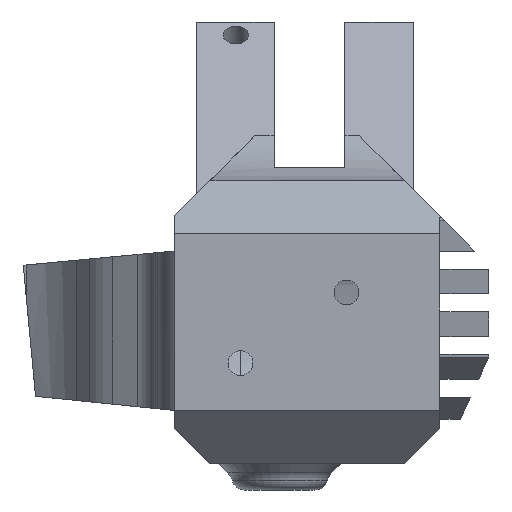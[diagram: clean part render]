
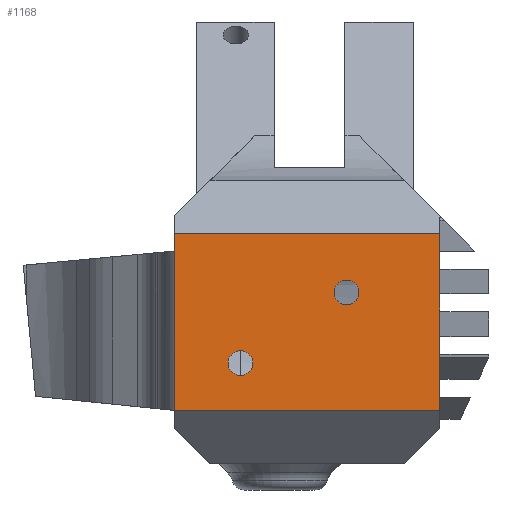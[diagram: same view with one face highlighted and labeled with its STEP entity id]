
A CAD part, left-side view. The second image highlights one B-rep face of the part: STEP entity #1168.
In plain terms, the highlighted planar face has unit normal (-1, 0, 0).
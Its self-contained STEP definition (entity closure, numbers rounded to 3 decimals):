
#180=PLANE('',#4068);
#551=LINE('',#5789,#875);
#629=LINE('',#6039,#953);
#659=LINE('',#6206,#983);
#660=LINE('',#6207,#984);
#875=VECTOR('',#4491,1.);
#953=VECTOR('',#4615,1.);
#983=VECTOR('',#4673,1.);
#984=VECTOR('',#4674,1.);
#1168=ADVANCED_FACE('',(#1523,#1524,#1525),#180,.F.);
#1523=FACE_BOUND('',#1643,.T.);
#1524=FACE_BOUND('',#1644,.T.);
#1525=FACE_BOUND('',#1645,.T.);
#1643=EDGE_LOOP('',(#2179,#2180,#2181,#2182));
#1644=EDGE_LOOP('',(#2183));
#1645=EDGE_LOOP('',(#2184));
#2179=ORIENTED_EDGE('',*,*,#3458,.F.);
#2180=ORIENTED_EDGE('',*,*,#3602,.T.);
#2181=ORIENTED_EDGE('',*,*,#3555,.F.);
#2182=ORIENTED_EDGE('',*,*,#3603,.T.);
#2183=ORIENTED_EDGE('',*,*,#3604,.T.);
#2184=ORIENTED_EDGE('',*,*,#3605,.F.);
#3071=VERTEX_POINT('',#5788);
#3072=VERTEX_POINT('',#5790);
#3150=VERTEX_POINT('',#6038);
#3151=VERTEX_POINT('',#6040);
#3192=VERTEX_POINT('',#6209);
#3193=VERTEX_POINT('',#6211);
#3458=EDGE_CURVE('',#3071,#3072,#551,.T.);
#3555=EDGE_CURVE('',#3150,#3151,#629,.T.);
#3602=EDGE_CURVE('',#3071,#3151,#659,.T.);
#3603=EDGE_CURVE('',#3150,#3072,#660,.T.);
#3604=EDGE_CURVE('',#3192,#3192,#3903,.T.);
#3605=EDGE_CURVE('',#3193,#3193,#3904,.T.);
#3903=CIRCLE('',#4066,1.4);
#3904=CIRCLE('',#4067,1.4);
#4066=AXIS2_PLACEMENT_3D('',#6208,#4675,#4676);
#4067=AXIS2_PLACEMENT_3D('',#6210,#4677,#4678);
#4068=AXIS2_PLACEMENT_3D('',#6212,#4679,#4680);
#4491=DIRECTION('',(0.,0.,1.));
#4615=DIRECTION('',(0.,0.,-1.));
#4673=DIRECTION('',(0.,-1.,0.));
#4674=DIRECTION('',(0.,1.,0.));
#4675=DIRECTION('',(1.,0.,0.));
#4676=DIRECTION('',(0.,0.,-1.));
#4677=DIRECTION('',(-1.,0.,0.));
#4678=DIRECTION('',(0.,0.,-1.));
#4679=DIRECTION('',(1.,0.,0.));
#4680=DIRECTION('',(0.,0.,-1.));
#5788=CARTESIAN_POINT('',(-59.,7.505,-10.));
#5789=CARTESIAN_POINT('',(-59.,7.505,16.));
#5790=CARTESIAN_POINT('',(-59.,7.505,10.));
#6038=CARTESIAN_POINT('',(-59.,-22.495,10.));
#6039=CARTESIAN_POINT('',(-59.,-22.495,-16.));
#6040=CARTESIAN_POINT('',(-59.,-22.495,-10.));
#6206=CARTESIAN_POINT('',(-59.,-7.495,-10.));
#6207=CARTESIAN_POINT('',(-59.,-7.495,10.));
#6208=CARTESIAN_POINT('',(-59.,0.055,-4.644));
#6209=CARTESIAN_POINT('',(-59.,0.055,-6.044));
#6210=CARTESIAN_POINT('',(-59.,-11.945,3.356));
#6211=CARTESIAN_POINT('',(-59.,-11.945,1.956));
#6212=CARTESIAN_POINT('',(-59.,-7.495,0.));
